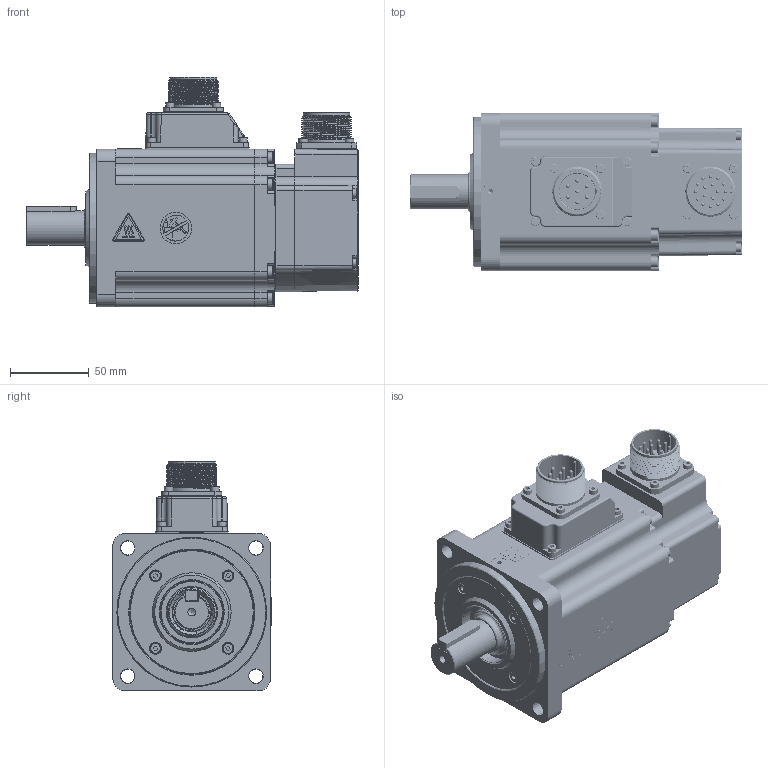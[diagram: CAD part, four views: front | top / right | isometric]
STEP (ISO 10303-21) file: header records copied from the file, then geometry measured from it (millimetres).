
FILE_DESCRIPTION(/* description */ ('AdapterTestApp'),/* implementation_level */ '2;1');
FILE_NAME(/* name */ 'TCE100 4A XX 3 A1 0 C3',/* time_stamp */ '2015-09-02T15:15:09+02:00',/* author */ ('AdapterTestApp'),/* organization */ ('Siemens PLM Software'),/* preprocessor_version */ 'ST-DEVELOPER v15.6',/* originating_system */ 'DEX',/* authorisation */ $);
FILE_SCHEMA (('AUTOMOTIVE_DESIGN {1 0 10303 214 3 1 1}'));
Products named in the file (29): TCE100 4A XX 3 A1 0 C3_vuoto; 005911000203; 003155002049; 005123000420; 003003199421; 003103001501; 001107000620; 005911000206; 005204000002; U5140003 vuoto; 003120002502; 003303000370; 005911000150; 003108002568_90Â°; 005911000201; 003799000580; 003303000373; 005117001750; 005007000130; 005123000500; 003155002050; connettore MS4102E-20-29P-624; 005911000493; 005119000312; 005113000596; 005204000003; 005911000183; 003251022001; 005204000001
Assembly tree (56 placements, depth 3):
  TCE100 4A XX 3 A1 0 C3_vuoto
    005911000203  x4
    003155002049
    005123000420
    003003199421
    003103001501
    001107000620
    005911000206  x8
    005204000002
    U5140003 vuoto
      003120002502
      003303000370
      005911000150
      003108002568_90Â°
      005911000201  x8
      003799000580
      003303000373
      005117001750
    005007000130
    005123000500
    003155002050
    connettore MS4102E-20-29P-624
    005911000201  x4
    003303000373
    005911000493  x4
    005119000312
    005113000596
    005204000003
    005911000183  x4
    003251022001
    005204000001
Bounding box: 210.5 x 100.3 x 145.8 mm (x, y, z)
Volume: 647024.9 mm3; surface area: 295525.6 mm2
Topology: 72 solids, 82 shells, 2998 faces, 7408 edges, 4771 vertices
Faces by surface type: plane 1536, cylinder 711, extrusion 233, cone 168, torus 145, bspline 103, sphere 102
Full cylindrical faces by diameter (mm): 2 x35, 2.224 x1, 2.4 x8, 2.459 x23, 2.5 x1, 2.6 x1, 2.8 x7, 3 x34, 3.048 x4, 3.2 x5, 3.242 x36, 3.5 x17, 3.6 x1, 3.7 x8, 3.8 x2, 4 x29, 4.5 x16, 4.7 x11, 4.917 x1, 5.1 x1, 5.5 x31, 5.8 x6, 7 x16, 7.5 x4, 8 x3, 10 x1, 11 x1, 12 x2, 16.98 x1, 17 x2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
Entity records: 91246 total; most frequent: CARTESIAN_POINT 32622, ORIENTED_EDGE 11430, DIRECTION 11329, EDGE_CURVE 5715, VERTEX_POINT 4004, AXIS2_PLACEMENT_3D 3927, FACE_BOUND 3497, VECTOR 3475
